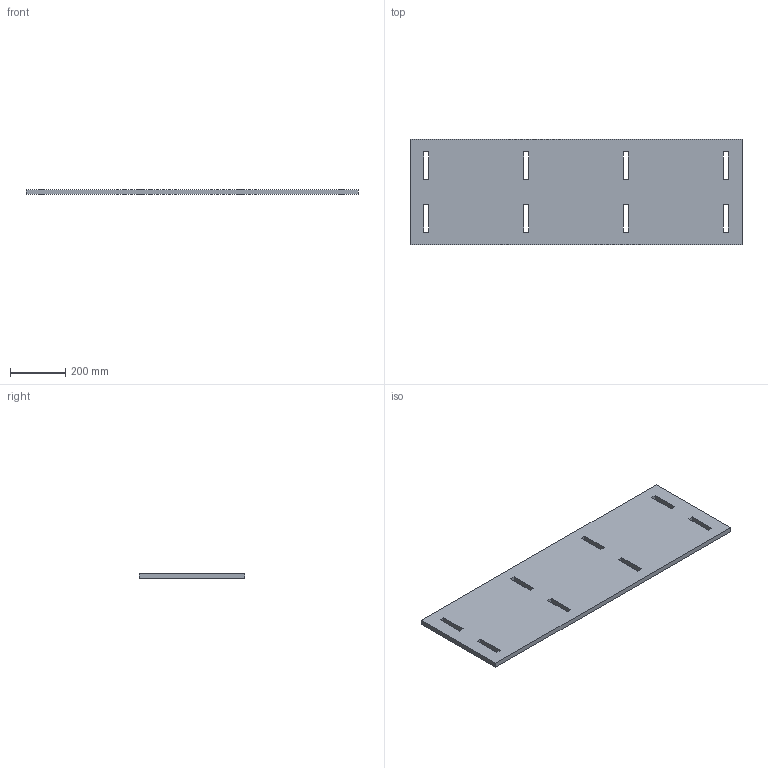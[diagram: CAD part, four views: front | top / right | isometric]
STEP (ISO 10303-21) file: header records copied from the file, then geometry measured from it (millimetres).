
FILE_DESCRIPTION(('Open CASCADE Model'),'2;1');
FILE_NAME('Open CASCADE Shape Model','2026-09-27T09:04:20',('Author'),( 'Open CASCADE'),'Open CASCADE STEP processor 7.9','Open CASCADE 7.9' ,'Unknown');
FILE_SCHEMA(('AUTOMOTIVE_DESIGN { 1 0 10303 214 1 1 1 1 }'));
Length unit declared in the file: millimetre
Products named in the file (1): Open CASCADE STEP translator 7.9 2
Bounding box: 1200 x 380 x 18 mm (x, y, z)
Volume: 7945920 mm3; surface area: 973801.6 mm2
Topology: 1 solids, 1 shells, 38 faces, 108 edges, 72 vertices
Faces by surface type: plane 38
Entity records: 2530 total; most frequent: CARTESIAN_POINT 563, DIRECTION 274, ORIENTED_EDGE 216, PCURVE 216, DEFINITIONAL_REPRESENTATION 216, LINE 196, VECTOR 196, B_SPLINE_CURVE_WITH_KNOTS 128
